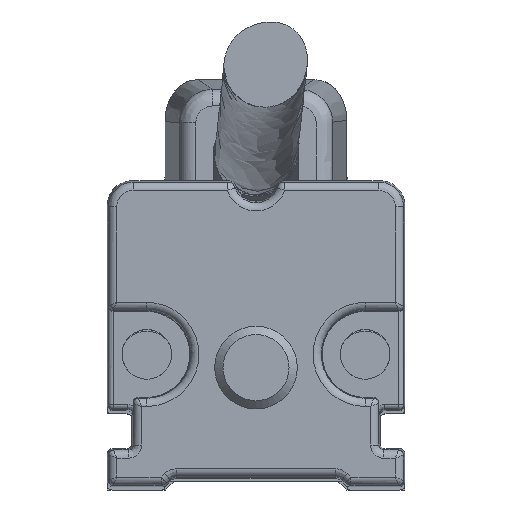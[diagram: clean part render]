
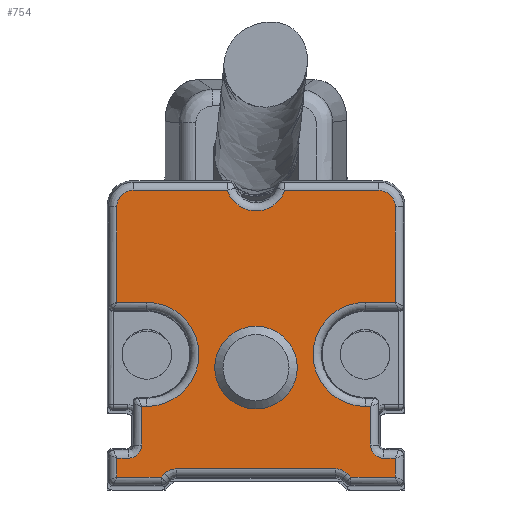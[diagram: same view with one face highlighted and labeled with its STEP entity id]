
A CAD part, front view. The second image highlights one B-rep face of the part: STEP entity #754.
In plain terms, the highlighted planar face has unit normal (0, -1, 0).
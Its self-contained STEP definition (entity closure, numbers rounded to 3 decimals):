
#339=PLANE('',#10239);
#596=FACE_BOUND('',#2019,.T.);
#597=FACE_BOUND('',#2020,.T.);
#754=ADVANCED_FACE('',(#596,#597),#339,.T.);
#2019=EDGE_LOOP('',(#4900));
#2020=EDGE_LOOP('',(#4901,#4902,#4903,#4904,#4905,#4906,#4907,#4908,#4909,
#4910,#4911,#4912,#4913,#4914,#4915,#4916,#4917,#4918,#4919,#4920,#4921,
#4922,#4923,#4924,#4925,#4926,#4927,#4928));
#2574=ELLIPSE('',#10230,1.,1.);
#2575=ELLIPSE('',#10232,1.,1.);
#2576=ELLIPSE('',#10234,0.8,0.8);
#2577=ELLIPSE('',#10235,1.,1.);
#2578=ELLIPSE('',#10236,1.,1.);
#2579=ELLIPSE('',#10237,0.8,0.8);
#2880=LINE('',#14708,#3748);
#2881=LINE('',#14713,#3749);
#2882=LINE('',#14717,#3750);
#2883=LINE('',#14721,#3751);
#2884=LINE('',#14723,#3752);
#2885=LINE('',#14727,#3753);
#2886=LINE('',#14729,#3754);
#2887=LINE('',#14733,#3755);
#2888=LINE('',#14735,#3756);
#2889=LINE('',#14737,#3757);
#2890=LINE('',#14739,#3758);
#2891=LINE('',#14743,#3759);
#2892=LINE('',#14747,#3760);
#2893=LINE('',#14749,#3761);
#2894=LINE('',#14751,#3762);
#2895=LINE('',#14753,#3763);
#2896=LINE('',#14757,#3764);
#2897=LINE('',#14759,#3765);
#2898=LINE('',#14763,#3766);
#3748=VECTOR('',#11602,1.);
#3749=VECTOR('',#11605,1.);
#3750=VECTOR('',#11608,1.);
#3751=VECTOR('',#11611,1.);
#3752=VECTOR('',#11612,1.);
#3753=VECTOR('',#11615,1.);
#3754=VECTOR('',#11616,1.);
#3755=VECTOR('',#11619,1.);
#3756=VECTOR('',#11620,1.);
#3757=VECTOR('',#11621,1.);
#3758=VECTOR('',#11622,1.);
#3759=VECTOR('',#11625,1.);
#3760=VECTOR('',#11628,1.);
#3761=VECTOR('',#11629,1.);
#3762=VECTOR('',#11630,1.);
#3763=VECTOR('',#11631,1.);
#3764=VECTOR('',#11634,1.);
#3765=VECTOR('',#11635,1.);
#3766=VECTOR('',#11638,1.);
#4900=ORIENTED_EDGE('',*,*,#8575,.F.);
#4901=ORIENTED_EDGE('',*,*,#8576,.T.);
#4902=ORIENTED_EDGE('',*,*,#8577,.T.);
#4903=ORIENTED_EDGE('',*,*,#8578,.T.);
#4904=ORIENTED_EDGE('',*,*,#8579,.T.);
#4905=ORIENTED_EDGE('',*,*,#8580,.T.);
#4906=ORIENTED_EDGE('',*,*,#8581,.T.);
#4907=ORIENTED_EDGE('',*,*,#8582,.T.);
#4908=ORIENTED_EDGE('',*,*,#8583,.T.);
#4909=ORIENTED_EDGE('',*,*,#8584,.T.);
#4910=ORIENTED_EDGE('',*,*,#8585,.T.);
#4911=ORIENTED_EDGE('',*,*,#8586,.T.);
#4912=ORIENTED_EDGE('',*,*,#8587,.T.);
#4913=ORIENTED_EDGE('',*,*,#8588,.T.);
#4914=ORIENTED_EDGE('',*,*,#8589,.T.);
#4915=ORIENTED_EDGE('',*,*,#8590,.T.);
#4916=ORIENTED_EDGE('',*,*,#8591,.T.);
#4917=ORIENTED_EDGE('',*,*,#8592,.T.);
#4918=ORIENTED_EDGE('',*,*,#8593,.T.);
#4919=ORIENTED_EDGE('',*,*,#8594,.T.);
#4920=ORIENTED_EDGE('',*,*,#8595,.T.);
#4921=ORIENTED_EDGE('',*,*,#8596,.T.);
#4922=ORIENTED_EDGE('',*,*,#8597,.T.);
#4923=ORIENTED_EDGE('',*,*,#8598,.T.);
#4924=ORIENTED_EDGE('',*,*,#8599,.T.);
#4925=ORIENTED_EDGE('',*,*,#8600,.T.);
#4926=ORIENTED_EDGE('',*,*,#8601,.T.);
#4927=ORIENTED_EDGE('',*,*,#8602,.T.);
#4928=ORIENTED_EDGE('',*,*,#8603,.T.);
#7566=VERTEX_POINT('',#14707);
#7567=VERTEX_POINT('',#14709);
#7568=VERTEX_POINT('',#14710);
#7569=VERTEX_POINT('',#14712);
#7570=VERTEX_POINT('',#14714);
#7571=VERTEX_POINT('',#14716);
#7572=VERTEX_POINT('',#14718);
#7573=VERTEX_POINT('',#14720);
#7574=VERTEX_POINT('',#14722);
#7575=VERTEX_POINT('',#14724);
#7576=VERTEX_POINT('',#14726);
#7577=VERTEX_POINT('',#14728);
#7578=VERTEX_POINT('',#14730);
#7579=VERTEX_POINT('',#14732);
#7580=VERTEX_POINT('',#14734);
#7581=VERTEX_POINT('',#14736);
#7582=VERTEX_POINT('',#14738);
#7583=VERTEX_POINT('',#14740);
#7584=VERTEX_POINT('',#14742);
#7585=VERTEX_POINT('',#14744);
#7586=VERTEX_POINT('',#14746);
#7587=VERTEX_POINT('',#14748);
#7588=VERTEX_POINT('',#14750);
#7589=VERTEX_POINT('',#14752);
#7590=VERTEX_POINT('',#14754);
#7591=VERTEX_POINT('',#14756);
#7592=VERTEX_POINT('',#14758);
#7593=VERTEX_POINT('',#14760);
#7594=VERTEX_POINT('',#14762);
#8575=EDGE_CURVE('',#7566,#7566,#9776,.T.);
#8576=EDGE_CURVE('',#7567,#7568,#2880,.T.);
#8577=EDGE_CURVE('',#7568,#7569,#2574,.T.);
#8578=EDGE_CURVE('',#7569,#7570,#2881,.T.);
#8579=EDGE_CURVE('',#7570,#7571,#9777,.T.);
#8580=EDGE_CURVE('',#7571,#7572,#2882,.T.);
#8581=EDGE_CURVE('',#7572,#7573,#2575,.T.);
#8582=EDGE_CURVE('',#7573,#7574,#2883,.T.);
#8583=EDGE_CURVE('',#7574,#7575,#2884,.T.);
#8584=EDGE_CURVE('',#7575,#7576,#9778,.T.);
#8585=EDGE_CURVE('',#7576,#7577,#2885,.T.);
#8586=EDGE_CURVE('',#7577,#7578,#2886,.T.);
#8587=EDGE_CURVE('',#7578,#7579,#2576,.T.);
#8588=EDGE_CURVE('',#7579,#7580,#2887,.T.);
#8589=EDGE_CURVE('',#7580,#7581,#2888,.T.);
#8590=EDGE_CURVE('',#7581,#7582,#2889,.T.);
#8591=EDGE_CURVE('',#7582,#7583,#2890,.T.);
#8592=EDGE_CURVE('',#7583,#7584,#2577,.T.);
#8593=EDGE_CURVE('',#7584,#7585,#2891,.T.);
#8594=EDGE_CURVE('',#7585,#7586,#2578,.T.);
#8595=EDGE_CURVE('',#7586,#7587,#2892,.T.);
#8596=EDGE_CURVE('',#7587,#7588,#2893,.T.);
#8597=EDGE_CURVE('',#7588,#7589,#2894,.T.);
#8598=EDGE_CURVE('',#7589,#7590,#2895,.T.);
#8599=EDGE_CURVE('',#7590,#7591,#2579,.T.);
#8600=EDGE_CURVE('',#7591,#7592,#2896,.T.);
#8601=EDGE_CURVE('',#7592,#7593,#2897,.T.);
#8602=EDGE_CURVE('',#7593,#7594,#9779,.T.);
#8603=EDGE_CURVE('',#7594,#7567,#2898,.T.);
#9776=CIRCLE('',#10229,2.5);
#9777=CIRCLE('',#10231,1.829);
#9778=CIRCLE('',#10233,3.148);
#9779=CIRCLE('',#10238,3.148);
#10229=AXIS2_PLACEMENT_3D('',#14706,#11600,#11601);
#10230=AXIS2_PLACEMENT_3D('',#14711,#11603,#11604);
#10231=AXIS2_PLACEMENT_3D('',#14715,#11606,#11607);
#10232=AXIS2_PLACEMENT_3D('',#14719,#11609,#11610);
#10233=AXIS2_PLACEMENT_3D('',#14725,#11613,#11614);
#10234=AXIS2_PLACEMENT_3D('',#14731,#11617,#11618);
#10235=AXIS2_PLACEMENT_3D('',#14741,#11623,#11624);
#10236=AXIS2_PLACEMENT_3D('',#14745,#11626,#11627);
#10237=AXIS2_PLACEMENT_3D('',#14755,#11632,#11633);
#10238=AXIS2_PLACEMENT_3D('',#14761,#11636,#11637);
#10239=AXIS2_PLACEMENT_3D('',#14764,#11639,#11640);
#11600=DIRECTION('',(0.,-1.,0.));
#11601=DIRECTION('',(0.,0.,-1.));
#11602=DIRECTION('',(0.,0.,1.));
#11603=DIRECTION('',(0.,-1.,0.));
#11604=DIRECTION('',(-0.707,0.,-0.707));
#11605=DIRECTION('',(-1.,0.,0.));
#11606=DIRECTION('',(0.,1.,0.));
#11607=DIRECTION('',(0.,0.,-1.));
#11608=DIRECTION('',(-1.,0.,0.));
#11609=DIRECTION('',(0.,-1.,0.));
#11610=DIRECTION('',(0.707,0.,-0.707));
#11611=DIRECTION('',(0.,0.,-1.));
#11612=DIRECTION('',(1.,0.,0.));
#11613=DIRECTION('',(0.,1.,0.));
#11614=DIRECTION('',(0.,0.,-1.));
#11615=DIRECTION('',(-1.,0.,0.));
#11616=DIRECTION('',(0.,0.,-1.));
#11617=DIRECTION('',(0.,1.,0.));
#11618=DIRECTION('',(-0.707,0.,0.707));
#11619=DIRECTION('',(-1.,0.,0.));
#11620=DIRECTION('',(0.,0.,-1.));
#11621=DIRECTION('',(1.,0.,0.));
#11622=DIRECTION('',(0.707,0.,0.707));
#11623=DIRECTION('',(0.,1.,0.));
#11624=DIRECTION('',(0.383,0.,-0.924));
#11625=DIRECTION('',(1.,0.,0.));
#11626=DIRECTION('',(0.,1.,0.));
#11627=DIRECTION('',(-0.383,0.,-0.924));
#11628=DIRECTION('',(0.707,0.,-0.707));
#11629=DIRECTION('',(1.,0.,0.));
#11630=DIRECTION('',(0.,0.,1.));
#11631=DIRECTION('',(-1.,0.,0.));
#11632=DIRECTION('',(0.,1.,0.));
#11633=DIRECTION('',(0.707,0.,0.707));
#11634=DIRECTION('',(0.,0.,1.));
#11635=DIRECTION('',(-1.,0.,0.));
#11636=DIRECTION('',(0.,1.,0.));
#11637=DIRECTION('',(0.,0.,-1.));
#11638=DIRECTION('',(1.,0.,0.));
#11639=DIRECTION('',(0.,-1.,0.));
#11640=DIRECTION('',(1.,0.,0.));
#14706=CARTESIAN_POINT('',(0.,45.8,106.9));
#14707=CARTESIAN_POINT('',(0.,45.8,104.4));
#14708=CARTESIAN_POINT('',(8.421,45.8,116.95));
#14709=CARTESIAN_POINT('',(8.421,45.8,110.848));
#14710=CARTESIAN_POINT('',(8.421,45.8,116.622));
#14711=CARTESIAN_POINT('',(7.421,45.8,116.621));
#14712=CARTESIAN_POINT('',(7.421,45.8,117.621));
#14713=CARTESIAN_POINT('',(7.75,45.8,117.621));
#14714=CARTESIAN_POINT('',(1.735,45.8,117.621));
#14715=CARTESIAN_POINT('',(0.,45.8,118.2));
#14716=CARTESIAN_POINT('',(-1.735,45.8,117.621));
#14717=CARTESIAN_POINT('',(7.75,45.8,117.621));
#14718=CARTESIAN_POINT('',(-7.422,45.8,117.621));
#14719=CARTESIAN_POINT('',(-7.421,45.8,116.621));
#14720=CARTESIAN_POINT('',(-8.421,45.8,116.622));
#14721=CARTESIAN_POINT('',(-8.421,45.8,116.95));
#14722=CARTESIAN_POINT('',(-8.421,45.8,110.848));
#14723=CARTESIAN_POINT('',(-6.6,45.8,110.848));
#14724=CARTESIAN_POINT('',(-6.6,45.8,110.848));
#14725=CARTESIAN_POINT('',(-6.6,45.8,107.7));
#14726=CARTESIAN_POINT('',(-6.6,45.8,104.552));
#14727=CARTESIAN_POINT('',(-7.113,45.8,104.552));
#14728=CARTESIAN_POINT('',(-6.921,45.8,104.552));
#14729=CARTESIAN_POINT('',(-6.921,45.8,116.95));
#14730=CARTESIAN_POINT('',(-6.921,45.8,102.221));
#14731=CARTESIAN_POINT('',(-7.722,45.8,102.221));
#14732=CARTESIAN_POINT('',(-7.721,45.8,101.421));
#14733=CARTESIAN_POINT('',(7.75,45.8,101.421));
#14734=CARTESIAN_POINT('',(-8.421,45.8,101.421));
#14735=CARTESIAN_POINT('',(-8.421,45.8,116.95));
#14736=CARTESIAN_POINT('',(-8.421,45.8,100.279));
#14737=CARTESIAN_POINT('',(7.75,45.8,100.279));
#14738=CARTESIAN_POINT('',(-5.74,45.8,100.279));
#14739=CARTESIAN_POINT('',(9.341,45.8,115.359));
#14740=CARTESIAN_POINT('',(-5.533,45.8,100.486));
#14741=CARTESIAN_POINT('',(-4.825,45.8,99.778));
#14742=CARTESIAN_POINT('',(-4.826,45.8,100.779));
#14743=CARTESIAN_POINT('',(7.75,45.8,100.779));
#14744=CARTESIAN_POINT('',(4.828,45.8,100.779));
#14745=CARTESIAN_POINT('',(4.828,45.8,99.778));
#14746=CARTESIAN_POINT('',(5.535,45.8,100.486));
#14747=CARTESIAN_POINT('',(-1.59,45.8,107.61));
#14748=CARTESIAN_POINT('',(5.742,45.8,100.279));
#14749=CARTESIAN_POINT('',(7.75,45.8,100.279));
#14750=CARTESIAN_POINT('',(8.421,45.8,100.279));
#14751=CARTESIAN_POINT('',(8.421,45.8,116.95));
#14752=CARTESIAN_POINT('',(8.421,45.8,101.421));
#14753=CARTESIAN_POINT('',(7.75,45.8,101.421));
#14754=CARTESIAN_POINT('',(7.721,45.8,101.421));
#14755=CARTESIAN_POINT('',(7.721,45.8,102.221));
#14756=CARTESIAN_POINT('',(6.921,45.8,102.221));
#14757=CARTESIAN_POINT('',(6.921,45.8,116.95));
#14758=CARTESIAN_POINT('',(6.921,45.8,104.552));
#14759=CARTESIAN_POINT('',(6.6,45.8,104.552));
#14760=CARTESIAN_POINT('',(6.6,45.8,104.552));
#14761=CARTESIAN_POINT('',(6.6,45.8,107.7));
#14762=CARTESIAN_POINT('',(6.6,45.8,110.848));
#14763=CARTESIAN_POINT('',(8.613,45.8,110.848));
#14764=CARTESIAN_POINT('',(7.75,45.8,116.95));
